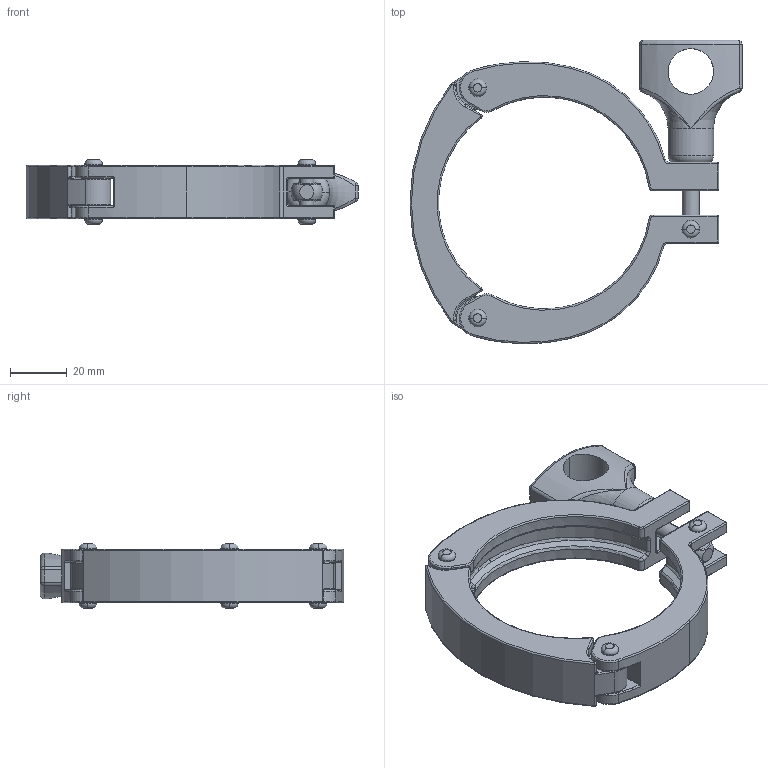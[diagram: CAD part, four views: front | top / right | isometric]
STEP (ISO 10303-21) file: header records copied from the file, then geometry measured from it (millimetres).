
FILE_DESCRIPTION (( 'STEP AP203' ), '1' );
FILE_NAME ('13MHHS2.5.STEP', '2022-06-08T07:26:20', ( 'user' ), ( '' ), 'SwSTEP 2.0', 'SolidWorks 2014', '' );
FILE_SCHEMA (( 'CONFIG_CONTROL_DESIGN' ));
Length unit declared in the file: millimetre
Products named in the file (7): 13MHHS-PART-4; 13MHHS2.5-3; 13MHHS2.5; 13MHHS2.5-2; Wing Nut 14; 13MHHS-PARTS-6; 13MHHS2.5-1
Assembly tree (8 placements, depth 2):
  13MHHS2.5
    13MHHS2.5-1
    13MHHS2.5-2
    13MHHS2.5-3
    13MHHS-PART-4
    13MHHS-PARTS-6  x3
    Wing Nut 14
Bounding box: 116.75 x 106.77 x 22.8 mm (x, y, z)
Volume: 64141.4 mm3; surface area: 28071.1 mm2
Topology: 8 solids, 8 shells, 588 faces, 1356 edges, 735 vertices
Faces by surface type: torus 201, cylinder 178, bspline 110, plane 62, sphere 30, cone 7
Entity records: 19225 total; most frequent: CARTESIAN_POINT 6537, DIRECTION 2670, ORIENTED_EDGE 2464, EDGE_CURVE 1232, AXIS2_PLACEMENT_3D 1206, CIRCLE 753, VERTEX_POINT 693, EDGE_LOOP 575
